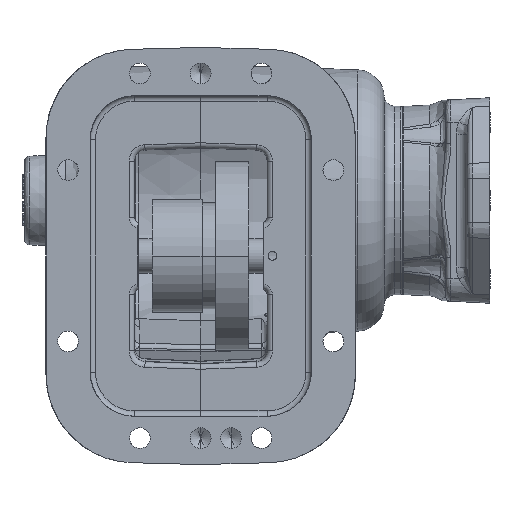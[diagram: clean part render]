
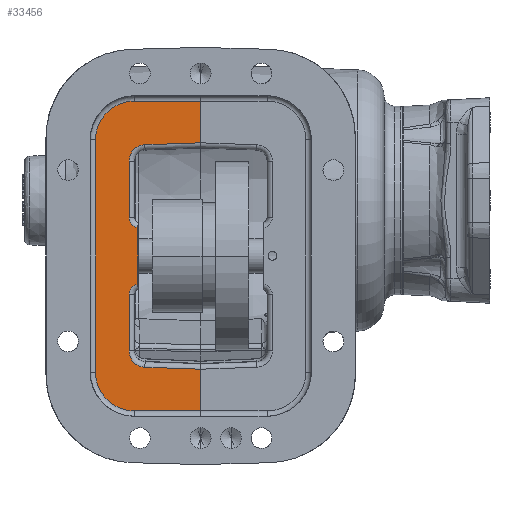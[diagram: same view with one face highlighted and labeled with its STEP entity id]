
A CAD part, front view. The second image highlights one B-rep face of the part: STEP entity #33456.
In plain terms, the highlighted planar face has unit normal (0, -1, 0).
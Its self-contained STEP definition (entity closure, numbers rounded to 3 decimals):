
#4606 = CARTESIAN_POINT ( 'NONE',  ( 0.127, -151.106, 26.761 ) ) ;
#4610 = CARTESIAN_POINT ( 'NONE',  ( -37.973, -151.106, 26.761 ) ) ;
#4614 = CARTESIAN_POINT ( 'NONE',  ( -60.325, -151.106, 4.409 ) ) ;
#4617 = CARTESIAN_POINT ( 'NONE',  ( -37.973, -151.106, -151.293 ) ) ;
#4619 = CARTESIAN_POINT ( 'NONE',  ( 0.127, -151.106, -151.293 ) ) ;
#4620 = CARTESIAN_POINT ( 'NONE',  ( -60.325, -151.106, -128.941 ) ) ;
#4644 = CARTESIAN_POINT ( 'NONE',  ( 0.127, -151.106, 2.76 ) ) ;
#4652 = CARTESIAN_POINT ( 'NONE',  ( -31.951, -151.106, 1.64 ) ) ;
#4653 = CARTESIAN_POINT ( 'NONE',  ( -41.021, -151.106, -40.104 ) ) ;
#4656 = CARTESIAN_POINT ( 'NONE',  ( -41.021, -151.106, -7.753 ) ) ;
#4658 = CARTESIAN_POINT ( 'NONE',  ( -36.195, -151.106, -46.066 ) ) ;
#4661 = CARTESIAN_POINT ( 'NONE',  ( -36.195, -151.106, -78.466 ) ) ;
#4670 = CARTESIAN_POINT ( 'NONE',  ( -41.021, -151.106, -84.428 ) ) ;
#4672 = CARTESIAN_POINT ( 'NONE',  ( -41.021, -151.106, -116.779 ) ) ;
#4673 = CARTESIAN_POINT ( 'NONE',  ( 0.127, -151.106, -127.292 ) ) ;
#4675 = CARTESIAN_POINT ( 'NONE',  ( -31.951, -151.106, -126.172 ) ) ;
#13291 = LINE ( 'NONE', #29570, #13298 ) ;
#13298 = VECTOR ( 'NONE', #29567, 1000. ) ;
#13309 = CIRCLE ( 'NONE', #116116, 9.398 ) ;
#15325 = VERTEX_POINT ( 'NONE', #4606 ) ;
#15337 = VERTEX_POINT ( 'NONE', #4610 ) ;
#15349 = VERTEX_POINT ( 'NONE', #4614 ) ;
#15356 = VERTEX_POINT ( 'NONE', #4617 ) ;
#15363 = VERTEX_POINT ( 'NONE', #4619 ) ;
#15364 = VERTEX_POINT ( 'NONE', #4620 ) ;
#15426 = VERTEX_POINT ( 'NONE', #4644 ) ;
#15448 = VERTEX_POINT ( 'NONE', #4652 ) ;
#15450 = VERTEX_POINT ( 'NONE', #4653 ) ;
#15459 = VERTEX_POINT ( 'NONE', #4656 ) ;
#15465 = VERTEX_POINT ( 'NONE', #4658 ) ;
#15474 = VERTEX_POINT ( 'NONE', #4661 ) ;
#15492 = VERTEX_POINT ( 'NONE', #4670 ) ;
#15494 = VERTEX_POINT ( 'NONE', #4672 ) ;
#15497 = VERTEX_POINT ( 'NONE', #4673 ) ;
#15502 = VERTEX_POINT ( 'NONE', #4675 ) ;
#17786 = DIRECTION ( 'NONE',  ( 0., 0., 1. ) ) ;
#17793 = CARTESIAN_POINT ( 'NONE',  ( -41.021, -151.106, -7.753 ) ) ;
#17845 = CARTESIAN_POINT ( 'NONE',  ( -31.623, -151.106, -7.753 ) ) ;
#17847 = DIRECTION ( 'NONE',  ( 0., 1., 0. ) ) ;
#17848 = DIRECTION ( 'NONE',  ( 0., 0., 1. ) ) ;
#17850 = CARTESIAN_POINT ( 'NONE',  ( 0.021, -151.106, 2.756 ) ) ;
#17881 = DIRECTION ( 'NONE',  ( 0.999, 0., 0.035 ) ) ;
#18836 = DIRECTION ( 'NONE',  ( 1., 0., 0. ) ) ;
#18838 = CARTESIAN_POINT ( 'NONE',  ( -37.973, -151.106, -128.941 ) ) ;
#18840 = DIRECTION ( 'NONE',  ( 0., -1., 0. ) ) ;
#18842 = DIRECTION ( 'NONE',  ( 0., 0., 1. ) ) ;
#18843 = CARTESIAN_POINT ( 'NONE',  ( 0.127, -151.106, -151.293 ) ) ;
#18856 = CARTESIAN_POINT ( 'NONE',  ( -60.325, -151.106, -128.941 ) ) ;
#18863 = DIRECTION ( 'NONE',  ( 0., 0., -1. ) ) ;
#18899 = CARTESIAN_POINT ( 'NONE',  ( -37.973, -151.106, 4.409 ) ) ;
#18901 = DIRECTION ( 'NONE',  ( 0., -1., 0. ) ) ;
#18903 = DIRECTION ( 'NONE',  ( 0., 0., 1. ) ) ;
#18930 = CARTESIAN_POINT ( 'NONE',  ( -37.973, -151.106, 26.761 ) ) ;
#18942 = DIRECTION ( 'NONE',  ( -1., 0., 0. ) ) ;
#24476 = LINE ( 'NONE', #28289, #24482 ) ;
#24482 = VECTOR ( 'NONE', #28287, 1000. ) ;
#24487 = CIRCLE ( 'NONE', #116222, 6.096 ) ;
#24495 = LINE ( 'NONE', #28325, #24498 ) ;
#24498 = VECTOR ( 'NONE', #28321, 1000. ) ;
#24502 = CIRCLE ( 'NONE', #116235, 6.096 ) ;
#24508 = LINE ( 'NONE', #17793, #24514 ) ;
#24514 = VECTOR ( 'NONE', #17786, 1000. ) ;
#24518 = CIRCLE ( 'NONE', #116242, 9.398 ) ;
#24523 = LINE ( 'NONE', #17850, #24530 ) ;
#24530 = VECTOR ( 'NONE', #17881, 1000. ) ;
#24572 = LINE ( 'NONE', #18843, #24577 ) ;
#24573 = CIRCLE ( 'NONE', #116267, 22.352 ) ;
#24577 = VECTOR ( 'NONE', #18836, 1000. ) ;
#24580 = LINE ( 'NONE', #18856, #24584 ) ;
#24584 = VECTOR ( 'NONE', #18863, 1000. ) ;
#24590 = CIRCLE ( 'NONE', #116273, 22.352 ) ;
#24596 = LINE ( 'NONE', #18930, #24600 ) ;
#24600 = VECTOR ( 'NONE', #18942, 1000. ) ;
#27972 = LINE ( 'NONE', #37874, #27977 ) ;
#27975 = LINE ( 'NONE', #37879, #27981 ) ;
#27977 = VECTOR ( 'NONE', #37877, 1000. ) ;
#27981 = VECTOR ( 'NONE', #37883, 1000. ) ;
#28287 = DIRECTION ( 'NONE',  ( 0., 0., 1. ) ) ;
#28289 = CARTESIAN_POINT ( 'NONE',  ( -41.021, -151.106, -84.428 ) ) ;
#28308 = CARTESIAN_POINT ( 'NONE',  ( -34.925, -151.106, -84.428 ) ) ;
#28309 = DIRECTION ( 'NONE',  ( 0., 1., 0. ) ) ;
#28310 = DIRECTION ( 'NONE',  ( 0., 0., 1. ) ) ;
#28321 = DIRECTION ( 'NONE',  ( 0., 0., 1. ) ) ;
#28325 = CARTESIAN_POINT ( 'NONE',  ( -36.195, -151.106, -46.066 ) ) ;
#28351 = CARTESIAN_POINT ( 'NONE',  ( -34.925, -151.106, -40.104 ) ) ;
#28352 = DIRECTION ( 'NONE',  ( 0., 1., 0. ) ) ;
#28353 = DIRECTION ( 'NONE',  ( 0., 0., 1. ) ) ;
#29567 = DIRECTION ( 'NONE',  ( -0.999, 0., 0.035 ) ) ;
#29570 = CARTESIAN_POINT ( 'NONE',  ( -31.951, -151.106, -126.172 ) ) ;
#29589 = CARTESIAN_POINT ( 'NONE',  ( -31.623, -151.106, -116.779 ) ) ;
#29590 = DIRECTION ( 'NONE',  ( 0., 1., 0. ) ) ;
#29591 = DIRECTION ( 'NONE',  ( 0., 0., 1. ) ) ;
#33456 = ADVANCED_FACE ( 'NONE', ( #96088 ), #80505, .F. ) ;
#37874 = CARTESIAN_POINT ( 'NONE',  ( 0.127, -151.106, 55.209 ) ) ;
#37877 = DIRECTION ( 'NONE',  ( 0., 0., -1. ) ) ;
#37879 = CARTESIAN_POINT ( 'NONE',  ( 0.127, -151.106, 55.209 ) ) ;
#37883 = DIRECTION ( 'NONE',  ( 0., 0., -1. ) ) ;
#39597 = EDGE_LOOP ( 'NONE', ( #78039, #78041, #78044, #78046, #78048, #78050, #78051, #78052, #78053, #78054, #78055, #78056, #78057, #78058, #78059, #78060 ) ) ;
#78039 = ORIENTED_EDGE ( 'NONE', *, *, #112430, .F. ) ;
#78041 = ORIENTED_EDGE ( 'NONE', *, *, #88999, .T. ) ;
#78044 = ORIENTED_EDGE ( 'NONE', *, *, #89005, .T. ) ;
#78046 = ORIENTED_EDGE ( 'NONE', *, *, #89557, .T. ) ;
#78048 = ORIENTED_EDGE ( 'NONE', *, *, #89563, .T. ) ;
#78050 = ORIENTED_EDGE ( 'NONE', *, *, #89570, .T. ) ;
#78051 = ORIENTED_EDGE ( 'NONE', *, *, #89578, .T. ) ;
#78052 = ORIENTED_EDGE ( 'NONE', *, *, #89583, .T. ) ;
#78053 = ORIENTED_EDGE ( 'NONE', *, *, #89589, .T. ) ;
#78054 = ORIENTED_EDGE ( 'NONE', *, *, #89595, .T. ) ;
#78055 = ORIENTED_EDGE ( 'NONE', *, *, #112431, .F. ) ;
#78056 = ORIENTED_EDGE ( 'NONE', *, *, #89676, .T. ) ;
#78057 = ORIENTED_EDGE ( 'NONE', *, *, #89670, .T. ) ;
#78058 = ORIENTED_EDGE ( 'NONE', *, *, #89664, .T. ) ;
#78059 = ORIENTED_EDGE ( 'NONE', *, *, #89658, .T. ) ;
#78060 = ORIENTED_EDGE ( 'NONE', *, *, #89660, .T. ) ;
#80498 = CARTESIAN_POINT ( 'NONE',  ( -88.773, -151.106, 55.209 ) ) ;
#80505 = PLANE ( 'NONE',  #120696 ) ;
#80507 = DIRECTION ( 'NONE',  ( 0., 1., 0. ) ) ;
#80508 = DIRECTION ( 'NONE',  ( 0., 0., 1. ) ) ;
#88999 = EDGE_CURVE ( 'NONE', #15497, #15502, #13291, .T. ) ;
#89005 = EDGE_CURVE ( 'NONE', #15502, #15494, #13309, .T. ) ;
#89557 = EDGE_CURVE ( 'NONE', #15494, #15492, #24476, .T. ) ;
#89563 = EDGE_CURVE ( 'NONE', #15492, #15474, #24487, .T. ) ;
#89570 = EDGE_CURVE ( 'NONE', #15474, #15465, #24495, .T. ) ;
#89578 = EDGE_CURVE ( 'NONE', #15465, #15450, #24502, .T. ) ;
#89583 = EDGE_CURVE ( 'NONE', #15450, #15459, #24508, .T. ) ;
#89589 = EDGE_CURVE ( 'NONE', #15459, #15448, #24518, .T. ) ;
#89595 = EDGE_CURVE ( 'NONE', #15448, #15426, #24523, .T. ) ;
#89658 = EDGE_CURVE ( 'NONE', #15364, #15356, #24573, .T. ) ;
#89660 = EDGE_CURVE ( 'NONE', #15356, #15363, #24572, .T. ) ;
#89664 = EDGE_CURVE ( 'NONE', #15349, #15364, #24580, .T. ) ;
#89670 = EDGE_CURVE ( 'NONE', #15337, #15349, #24590, .T. ) ;
#89676 = EDGE_CURVE ( 'NONE', #15325, #15337, #24596, .T. ) ;
#96088 = FACE_OUTER_BOUND ( 'NONE', #39597, .T. ) ;
#112430 = EDGE_CURVE ( 'NONE', #15497, #15363, #27972, .T. ) ;
#112431 = EDGE_CURVE ( 'NONE', #15325, #15426, #27975, .T. ) ;
#116116 = AXIS2_PLACEMENT_3D ( 'NONE', #29589, #29590, #29591 ) ;
#116222 = AXIS2_PLACEMENT_3D ( 'NONE', #28308, #28309, #28310 ) ;
#116235 = AXIS2_PLACEMENT_3D ( 'NONE', #28351, #28352, #28353 ) ;
#116242 = AXIS2_PLACEMENT_3D ( 'NONE', #17845, #17847, #17848 ) ;
#116267 = AXIS2_PLACEMENT_3D ( 'NONE', #18838, #18840, #18842 ) ;
#116273 = AXIS2_PLACEMENT_3D ( 'NONE', #18899, #18901, #18903 ) ;
#120696 = AXIS2_PLACEMENT_3D ( 'NONE', #80498, #80507, #80508 ) ;
